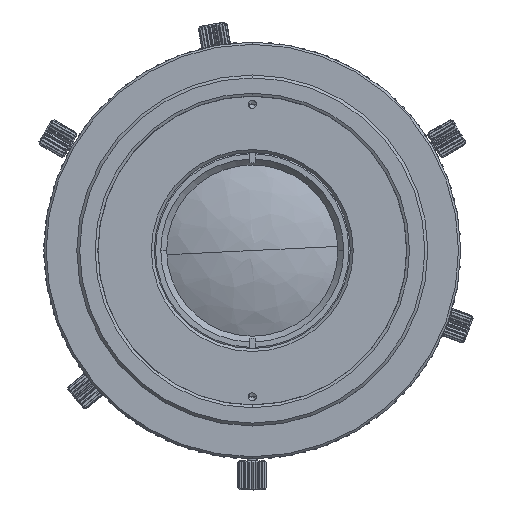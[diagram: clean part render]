
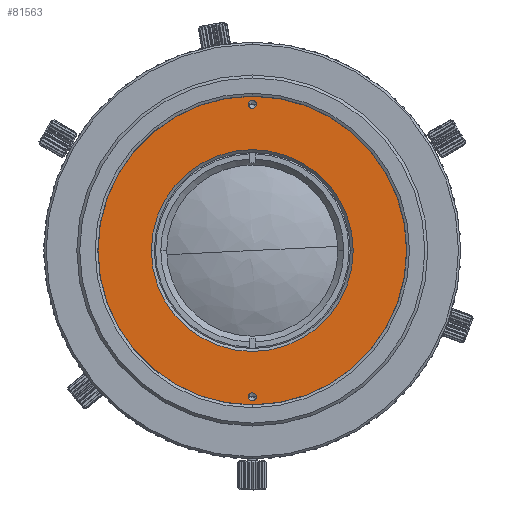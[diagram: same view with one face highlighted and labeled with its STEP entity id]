
A CAD part, top view. The second image highlights one B-rep face of the part: STEP entity #81563.
In plain terms, the highlighted planar face has unit normal (0, 0, 1).
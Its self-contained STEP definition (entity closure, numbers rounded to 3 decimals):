
#81198=CARTESIAN_POINT('',(0.,0.,0.));
#81199=DIRECTION('',(0.,0.,1.));
#81200=DIRECTION('',(-1.,0.,0.));
#81201=AXIS2_PLACEMENT_3D('',#81198,#81199,#81200);
#81203=CARTESIAN_POINT('',(0.,0.,0.));
#81204=DIRECTION('',(0.,0.,1.));
#81205=DIRECTION('',(1.,0.,0.));
#81206=AXIS2_PLACEMENT_3D('',#81203,#81204,#81205);
#81208=CARTESIAN_POINT('',(0.,20.,0.));
#81209=DIRECTION('',(0.,0.,-1.));
#81210=DIRECTION('',(-1.,0.,0.));
#81211=AXIS2_PLACEMENT_3D('',#81208,#81209,#81210);
#81213=CARTESIAN_POINT('',(0.,20.,0.));
#81214=DIRECTION('',(0.,0.,-1.));
#81215=DIRECTION('',(1.,0.,0.));
#81216=AXIS2_PLACEMENT_3D('',#81213,#81214,#81215);
#81218=CARTESIAN_POINT('',(0.,-20.,0.));
#81219=DIRECTION('',(0.,0.,-1.));
#81220=DIRECTION('',(-1.,0.,0.));
#81221=AXIS2_PLACEMENT_3D('',#81218,#81219,#81220);
#81223=CARTESIAN_POINT('',(0.,-20.,0.));
#81224=DIRECTION('',(0.,0.,-1.));
#81225=DIRECTION('',(1.,0.,0.));
#81226=AXIS2_PLACEMENT_3D('',#81223,#81224,#81225);
#81228=CARTESIAN_POINT('',(0.,0.,0.));
#81229=DIRECTION('',(0.,0.,-1.));
#81230=DIRECTION('',(-1.,0.,0.));
#81231=AXIS2_PLACEMENT_3D('',#81228,#81229,#81230);
#81233=CARTESIAN_POINT('',(0.,0.,0.));
#81234=DIRECTION('',(0.,0.,-1.));
#81235=DIRECTION('',(1.,0.,0.));
#81236=AXIS2_PLACEMENT_3D('',#81233,#81234,#81235);
#81441=CARTESIAN_POINT('',(21.1,0.,0.));
#81443=VERTEX_POINT('',#81441);
#81444=CARTESIAN_POINT('',(-13.8,0.,0.));
#81445=CARTESIAN_POINT('',(13.8,0.,0.));
#81446=VERTEX_POINT('',#81444);
#81447=VERTEX_POINT('',#81445);
#81448=CARTESIAN_POINT('',(-21.1,0.,0.));
#81449=VERTEX_POINT('',#81448);
#81458=CARTESIAN_POINT('',(0.55,-20.,0.));
#81459=CARTESIAN_POINT('',(-0.55,-20.,0.));
#81460=VERTEX_POINT('',#81458);
#81461=VERTEX_POINT('',#81459);
#81472=CARTESIAN_POINT('',(0.55,20.,0.));
#81473=CARTESIAN_POINT('',(-0.55,20.,0.));
#81474=VERTEX_POINT('',#81472);
#81475=VERTEX_POINT('',#81473);
#81536=CARTESIAN_POINT('',(0.,0.,0.));
#81537=DIRECTION('',(0.,0.,-1.));
#81538=DIRECTION('',(-1.,0.,0.));
#81539=AXIS2_PLACEMENT_3D('',#81536,#81537,#81538);
#81540=PLANE('',#81539);
#81542=ORIENTED_EDGE('',*,*,#81541,.F.);
#81544=ORIENTED_EDGE('',*,*,#81543,.F.);
#81545=EDGE_LOOP('',(#81542,#81544));
#81546=FACE_OUTER_BOUND('',#81545,.F.);
#81547=ORIENTED_EDGE('',*,*,#81529,.F.);
#81548=ORIENTED_EDGE('',*,*,#81516,.F.);
#81549=EDGE_LOOP('',(#81547,#81548));
#81550=FACE_BOUND('',#81549,.F.);
#81552=ORIENTED_EDGE('',*,*,#81551,.F.);
#81554=ORIENTED_EDGE('',*,*,#81553,.F.);
#81555=EDGE_LOOP('',(#81552,#81554));
#81556=FACE_BOUND('',#81555,.F.);
#81558=ORIENTED_EDGE('',*,*,#81557,.F.);
#81560=ORIENTED_EDGE('',*,*,#81559,.F.);
#81561=EDGE_LOOP('',(#81558,#81560));
#81562=FACE_BOUND('',#81561,.F.);
#81202=CIRCLE('',#81201,21.1);
#81207=CIRCLE('',#81206,21.1);
#81212=CIRCLE('',#81211,0.55);
#81217=CIRCLE('',#81216,0.55);
#81222=CIRCLE('',#81221,0.55);
#81227=CIRCLE('',#81226,0.55);
#81232=CIRCLE('',#81231,13.8);
#81237=CIRCLE('',#81236,13.8);
#81516=EDGE_CURVE('',#81474,#81475,#81217,.T.);
#81529=EDGE_CURVE('',#81475,#81474,#81212,.T.);
#81541=EDGE_CURVE('',#81449,#81443,#81202,.T.);
#81543=EDGE_CURVE('',#81443,#81449,#81207,.T.);
#81551=EDGE_CURVE('',#81461,#81460,#81222,.T.);
#81553=EDGE_CURVE('',#81460,#81461,#81227,.T.);
#81557=EDGE_CURVE('',#81446,#81447,#81232,.T.);
#81559=EDGE_CURVE('',#81447,#81446,#81237,.T.);
#81563=ADVANCED_FACE('',(#81546,#81550,#81556,#81562),#81540,.F.);
